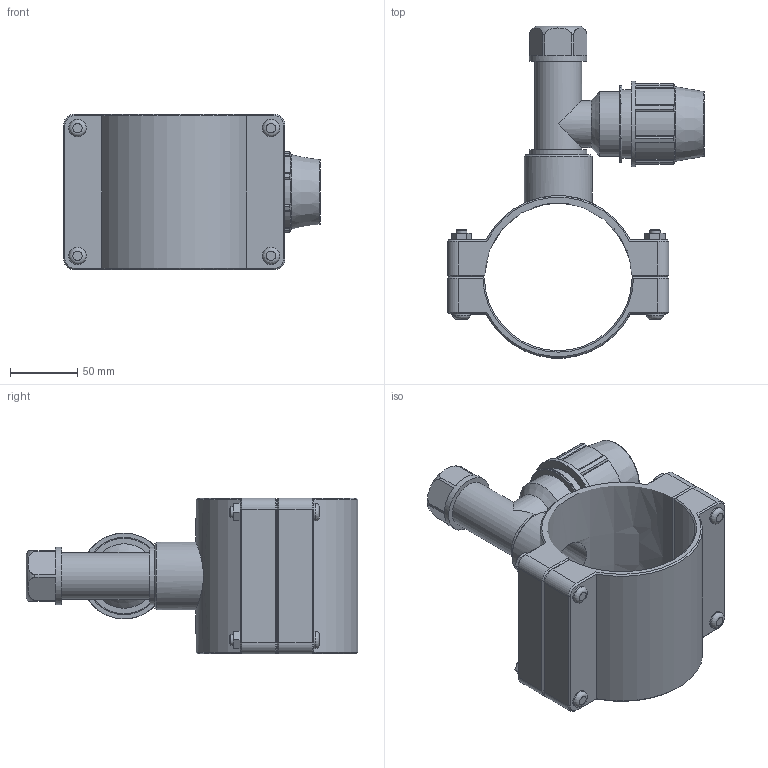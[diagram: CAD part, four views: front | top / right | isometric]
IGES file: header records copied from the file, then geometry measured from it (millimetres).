
Global section: file name: 165400110032_165406110032.ipt; native system: Autodesk Inventor 2015; preprocessor: unknown; author: KIM; date: 20170618.093920; units: millimetre
Bounding box: 191.5 x 247.28 x 116 mm (x, y, z)
Volume: 743992.3 mm3; surface area: 177352.4 mm2
Topology: 1 solids, 1 shells, 232 faces, 582 edges, 378 vertices
Faces by surface type: plane 145, cylinder 42, cone 28, revolution 17
Full cylindrical faces by diameter (mm): 8 x4, 13 x8, 35.057 x2, 38.952 x1, 42.847 x2, 48 x1, 50.638 x1, 51.2 x1, 57.6 x1, 64 x1
